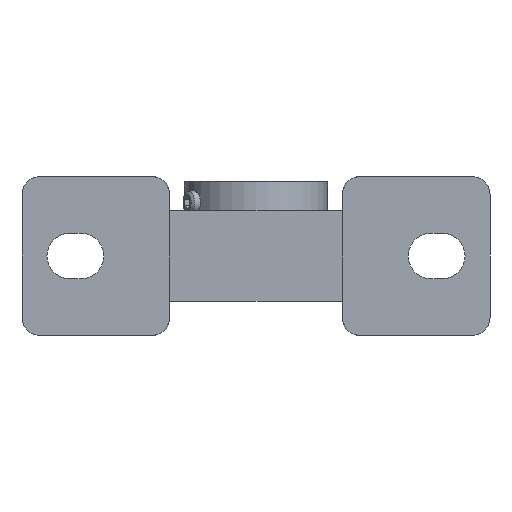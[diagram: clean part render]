
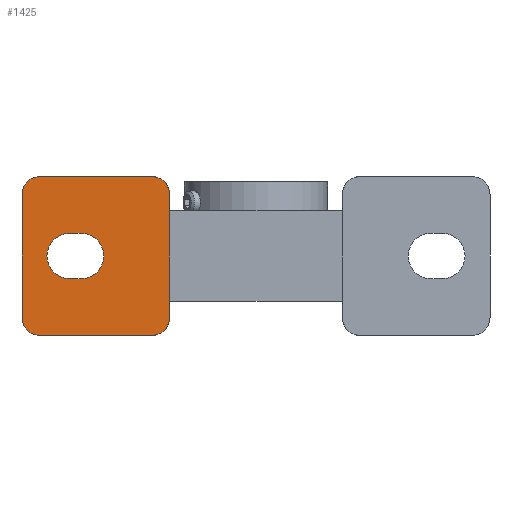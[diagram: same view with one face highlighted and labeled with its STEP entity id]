
A CAD part, front view. The second image highlights one B-rep face of the part: STEP entity #1425.
In plain terms, the highlighted planar face has unit normal (0, -1, 0).
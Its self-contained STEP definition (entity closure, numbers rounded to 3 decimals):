
#548=CARTESIAN_POINT('',(-3.645,-71.095,-35.0));
#549=VERTEX_POINT('',#548);
#556=CARTESIAN_POINT('',(-52.645,-71.095,-35.0));
#557=VERTEX_POINT('',#556);
#558=CARTESIAN_POINT('',(-3.645,-71.095,-35.0));
#559=DIRECTION('',(-1.0,0.0,0.0));
#560=VECTOR('',#559,49.);
#561=LINE('',#558,#560);
#562=EDGE_CURVE('',#549,#557,#561,.T.);
#1225=CARTESIAN_POINT('',(-60.645,-71.095,-27.0));
#1226=VERTEX_POINT('',#1225);
#1227=CARTESIAN_POINT('',(-52.645,-71.095,-27.0));
#1228=DIRECTION('',(0.0,1.0,0.0));
#1229=DIRECTION('',(-0.707,0.0,-0.707));
#1230=AXIS2_PLACEMENT_3D('',#1227,#1228,#1229);
#1231=CIRCLE('',#1230,8.);
#1232=EDGE_CURVE('',#557,#1226,#1231,.T.);
#1283=CARTESIAN_POINT('',(-60.645,-71.095,27.0));
#1284=VERTEX_POINT('',#1283);
#1291=CARTESIAN_POINT('',(-52.645,-71.095,35.0));
#1292=VERTEX_POINT('',#1291);
#1293=CARTESIAN_POINT('',(-52.645,-71.095,27.0));
#1294=DIRECTION('',(0.0,1.0,0.0));
#1295=DIRECTION('',(-0.707,0.0,0.707));
#1296=AXIS2_PLACEMENT_3D('',#1293,#1294,#1295);
#1297=CIRCLE('',#1296,8.);
#1298=EDGE_CURVE('',#1284,#1292,#1297,.T.);
#1315=CARTESIAN_POINT('',(-3.645,-71.095,35.0));
#1316=VERTEX_POINT('',#1315);
#1317=CARTESIAN_POINT('',(-52.645,-71.095,35.0));
#1318=DIRECTION('',(1.0,0.0,0.0));
#1319=VECTOR('',#1318,49.);
#1320=LINE('',#1317,#1319);
#1321=EDGE_CURVE('',#1292,#1316,#1320,.T.);
#1348=CARTESIAN_POINT('',(42.355,-71.095,0.0));
#1349=DIRECTION('',(0.0,-1.0,0.0));
#1350=DIRECTION('',(0.0,0.0,-1.0));
#1351=AXIS2_PLACEMENT_3D('',#1348,#1349,#1350);
#1352=PLANE('',#1351);
#1353=ORIENTED_EDGE('',*,*,#1232,.F.);
#1354=ORIENTED_EDGE('',*,*,#562,.F.);
#1355=CARTESIAN_POINT('',(4.355,-71.095,-27.));
#1356=VERTEX_POINT('',#1355);
#1357=CARTESIAN_POINT('',(-3.645,-71.095,-27.0));
#1358=DIRECTION('',(0.,1.0,0.));
#1359=DIRECTION('',(0.707,0.,-0.707));
#1360=AXIS2_PLACEMENT_3D('',#1357,#1358,#1359);
#1361=CIRCLE('',#1360,8.0);
#1362=EDGE_CURVE('',#1356,#549,#1361,.T.);
#1363=ORIENTED_EDGE('',*,*,#1362,.F.);
#1364=CARTESIAN_POINT('',(4.355,-71.095,27.));
#1365=VERTEX_POINT('',#1364);
#1366=CARTESIAN_POINT('',(4.355,-71.095,27.));
#1367=DIRECTION('',(0.0,0.0,-1.0));
#1368=VECTOR('',#1367,54.);
#1369=LINE('',#1366,#1368);
#1370=EDGE_CURVE('',#1365,#1356,#1369,.T.);
#1371=ORIENTED_EDGE('',*,*,#1370,.F.);
#1372=CARTESIAN_POINT('',(-3.645,-71.095,27.0));
#1373=DIRECTION('',(0.,1.0,0.));
#1374=DIRECTION('',(0.707,0.,0.707));
#1375=AXIS2_PLACEMENT_3D('',#1372,#1373,#1374);
#1376=CIRCLE('',#1375,8.0);
#1377=EDGE_CURVE('',#1316,#1365,#1376,.T.);
#1378=ORIENTED_EDGE('',*,*,#1377,.F.);
#1379=ORIENTED_EDGE('',*,*,#1321,.F.);
#1380=ORIENTED_EDGE('',*,*,#1298,.F.);
#1381=CARTESIAN_POINT('',(-60.645,-71.095,-27.0));
#1382=DIRECTION('',(0.0,0.0,1.0));
#1383=VECTOR('',#1382,54.0);
#1384=LINE('',#1381,#1383);
#1385=EDGE_CURVE('',#1226,#1284,#1384,.T.);
#1386=ORIENTED_EDGE('',*,*,#1385,.F.);
#1387=EDGE_LOOP('',(#1353,#1354,#1363,#1371,#1378,#1379,#1380,#1386));
#1388=FACE_OUTER_BOUND('',#1387,.T.);
#1389=CARTESIAN_POINT('',(-39.645,-71.095,-10.));
#1390=VERTEX_POINT('',#1389);
#1391=CARTESIAN_POINT('',(-34.645,-71.095,-10.));
#1392=VERTEX_POINT('',#1391);
#1393=CARTESIAN_POINT('',(-39.645,-71.095,-10.));
#1394=DIRECTION('',(1.0,0.0,0.0));
#1395=VECTOR('',#1394,5.0);
#1396=LINE('',#1393,#1395);
#1397=EDGE_CURVE('',#1390,#1392,#1396,.T.);
#1398=ORIENTED_EDGE('',*,*,#1397,.F.);
#1399=CARTESIAN_POINT('',(-39.645,-71.095,10.0));
#1400=VERTEX_POINT('',#1399);
#1401=CARTESIAN_POINT('',(-39.645,-71.095,0.0));
#1402=DIRECTION('',(0.0,-1.0,0.0));
#1403=DIRECTION('',(0.0,0.0,1.0));
#1404=AXIS2_PLACEMENT_3D('',#1401,#1402,#1403);
#1405=CIRCLE('',#1404,10.0);
#1406=EDGE_CURVE('',#1400,#1390,#1405,.T.);
#1407=ORIENTED_EDGE('',*,*,#1406,.F.);
#1408=CARTESIAN_POINT('',(-34.645,-71.095,10.0));
#1409=VERTEX_POINT('',#1408);
#1410=CARTESIAN_POINT('',(-34.645,-71.095,10.0));
#1411=DIRECTION('',(-1.0,0.0,0.0));
#1412=VECTOR('',#1411,5.0);
#1413=LINE('',#1410,#1412);
#1414=EDGE_CURVE('',#1409,#1400,#1413,.T.);
#1415=ORIENTED_EDGE('',*,*,#1414,.F.);
#1416=CARTESIAN_POINT('',(-34.645,-71.095,0.0));
#1417=DIRECTION('',(0.0,-1.0,0.0));
#1418=DIRECTION('',(0.0,0.0,-1.0));
#1419=AXIS2_PLACEMENT_3D('',#1416,#1417,#1418);
#1420=CIRCLE('',#1419,10.0);
#1421=EDGE_CURVE('',#1392,#1409,#1420,.T.);
#1422=ORIENTED_EDGE('',*,*,#1421,.F.);
#1423=EDGE_LOOP('',(#1398,#1407,#1415,#1422));
#1424=FACE_BOUND('',#1423,.T.);
#1425=ADVANCED_FACE('',(#1388,#1424),#1352,.T.);
